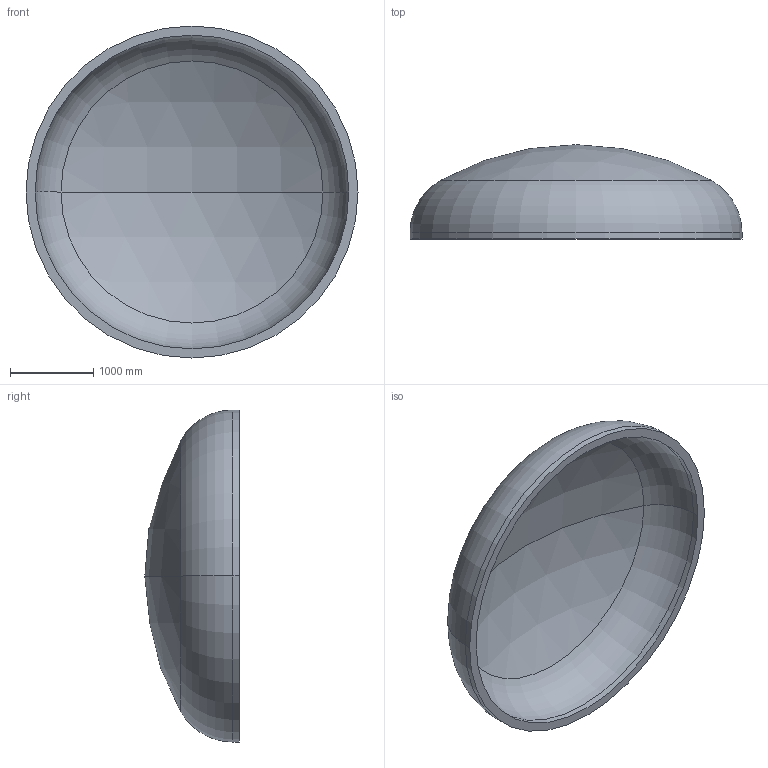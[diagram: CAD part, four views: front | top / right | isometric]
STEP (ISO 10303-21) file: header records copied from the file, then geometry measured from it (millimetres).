
FILE_DESCRIPTION (( 'STEP AP203' ), '1' );
FILE_NAME ('DIN 28013 Korbbogenform_-_Boden DIN 28013 - 4000 x 75 - I - s=110.step', '2016-07-01T22:52:18', ( '' ), ( '' ), 'SwSTEP 2.0', 'SolidWorks 2013', '' );
FILE_SCHEMA (( 'CONFIG_CONTROL_DESIGN' ));
Length unit declared in the file: millimetre
Products named in the file (1): DIN 28013 Korbbogenform_-_Boden DIN 28013 - 4000 x 75 - I - s=110
Bounding box: 4000 x 1136.31 x 4000 mm (x, y, z)
Volume: 1946995577.3 mm3; surface area: 36769537 mm2
Topology: 1 solids, 1 shells, 13 faces, 24 edges, 14 vertices
Faces by surface type: torus 4, cylinder 4, sphere 4, plane 1
Entity records: 407 total; most frequent: DIRECTION 72, CARTESIAN_POINT 52, ORIENTED_EDGE 48, AXIS2_PLACEMENT_3D 34, EDGE_CURVE 24, CIRCLE 20, EDGE_LOOP 14, VERTEX_POINT 14
